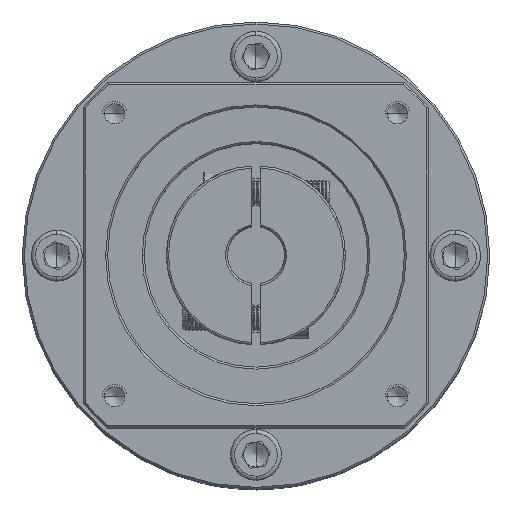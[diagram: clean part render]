
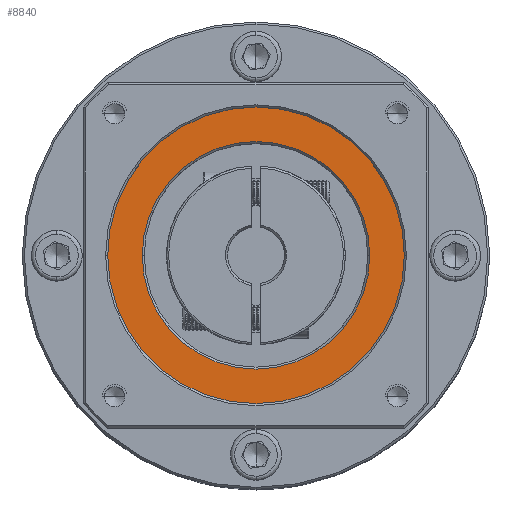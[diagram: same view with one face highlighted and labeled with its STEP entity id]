
A CAD part, top view. The second image highlights one B-rep face of the part: STEP entity #8840.
In plain terms, the highlighted planar face has unit normal (0, 0, 1).
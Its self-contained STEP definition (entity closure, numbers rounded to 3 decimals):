
#775 = CARTESIAN_POINT ( 'NONE',  ( 88.613, -44.936, 14.186 ) ) ;
#8840 = ADVANCED_FACE ( 'NONE', ( #16653, #33199 ), #70730, .T. ) ;
#10158 = EDGE_CURVE ( 'NONE', #89846, #125735, #123909, .T. ) ;
#10509 = DIRECTION ( 'NONE',  ( 1., 0., 0. ) ) ;
#10732 = AXIS2_PLACEMENT_3D ( 'NONE', #36098, #37334, #45932 ) ;
#14224 = CARTESIAN_POINT ( 'NONE',  ( 125.113, -44.936, 14.186 ) ) ;
#16653 = FACE_OUTER_BOUND ( 'NONE', #23648, .T. ) ;
#19297 = ORIENTED_EDGE ( 'NONE', *, *, #103099, .T. ) ;
#22432 = DIRECTION ( 'NONE',  ( 1., 0., 0. ) ) ;
#23648 = EDGE_LOOP ( 'NONE', ( #56662, #19297 ) ) ;
#32088 = DIRECTION ( 'NONE',  ( 1., 0., 0. ) ) ;
#33199 = FACE_BOUND ( 'NONE', #110668, .T. ) ;
#33432 = CIRCLE ( 'NONE', #10732, 28. ) ;
#33763 = DIRECTION ( 'NONE',  ( 0., 0., 1. ) ) ;
#36098 = CARTESIAN_POINT ( 'NONE',  ( 88.613, -44.936, 14.186 ) ) ;
#37334 = DIRECTION ( 'NONE',  ( 0., 0., -1. ) ) ;
#42313 = CARTESIAN_POINT ( 'NONE',  ( 88.613, -44.936, 14.186 ) ) ;
#45932 = DIRECTION ( 'NONE',  ( 1., 0., 0. ) ) ;
#49884 = CARTESIAN_POINT ( 'NONE',  ( 116.613, -44.936, 14.186 ) ) ;
#49926 = DIRECTION ( 'NONE',  ( 0., 0., -1. ) ) ;
#54238 = VERTEX_POINT ( 'NONE', #61899 ) ;
#55529 = VERTEX_POINT ( 'NONE', #49884 ) ;
#56662 = ORIENTED_EDGE ( 'NONE', *, *, #10158, .T. ) ;
#61839 = CARTESIAN_POINT ( 'NONE',  ( 52.113, -44.936, 14.186 ) ) ;
#61899 = CARTESIAN_POINT ( 'NONE',  ( 60.613, -44.936, 14.186 ) ) ;
#65777 = AXIS2_PLACEMENT_3D ( 'NONE', #90618, #80480, #32088 ) ;
#70730 = PLANE ( 'NONE',  #65777 ) ;
#74546 = CARTESIAN_POINT ( 'NONE',  ( 88.613, -44.936, 14.186 ) ) ;
#78372 = ORIENTED_EDGE ( 'NONE', *, *, #124822, .T. ) ;
#80480 = DIRECTION ( 'NONE',  ( 0., 0., 1. ) ) ;
#80514 = DIRECTION ( 'NONE',  ( 0., 0., 1. ) ) ;
#89846 = VERTEX_POINT ( 'NONE', #14224 ) ;
#89939 = AXIS2_PLACEMENT_3D ( 'NONE', #775, #49926, #10509 ) ;
#90618 = CARTESIAN_POINT ( 'NONE',  ( 88.613, -44.936, 14.186 ) ) ;
#96806 = CIRCLE ( 'NONE', #103279, 36.5 ) ;
#101679 = DIRECTION ( 'NONE',  ( 1., 0., 0. ) ) ;
#103099 = EDGE_CURVE ( 'NONE', #125735, #89846, #96806, .T. ) ;
#103279 = AXIS2_PLACEMENT_3D ( 'NONE', #42313, #80514, #22432 ) ;
#110668 = EDGE_LOOP ( 'NONE', ( #125836, #78372 ) ) ;
#114989 = CIRCLE ( 'NONE', #89939, 28. ) ;
#122509 = EDGE_CURVE ( 'NONE', #55529, #54238, #114989, .T. ) ;
#122741 = AXIS2_PLACEMENT_3D ( 'NONE', #74546, #33763, #101679 ) ;
#123909 = CIRCLE ( 'NONE', #122741, 36.5 ) ;
#124822 = EDGE_CURVE ( 'NONE', #54238, #55529, #33432, .T. ) ;
#125735 = VERTEX_POINT ( 'NONE', #61839 ) ;
#125836 = ORIENTED_EDGE ( 'NONE', *, *, #122509, .T. ) ;
